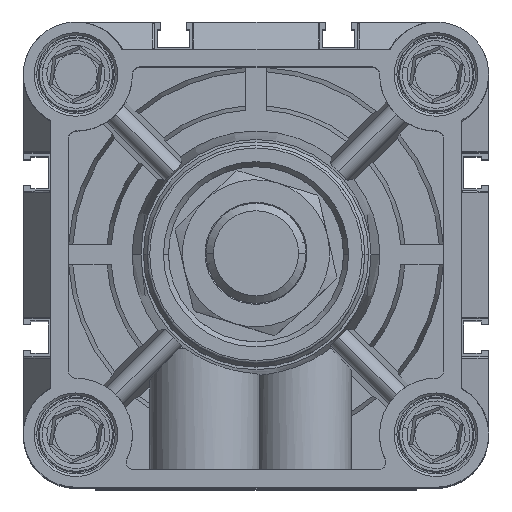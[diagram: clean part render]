
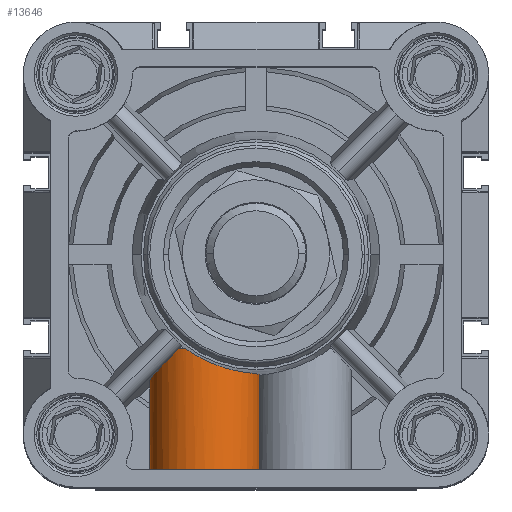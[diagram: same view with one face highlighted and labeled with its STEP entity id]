
A CAD part, top view. The second image highlights one B-rep face of the part: STEP entity #13646.
In plain terms, the highlighted cylindrical face has radius 11 mm (diameter 22 mm), a partial arc.
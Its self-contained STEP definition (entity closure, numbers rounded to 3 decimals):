
#85 = EDGE_CURVE ( 'NONE', #27370, #30979, #36142, .T. ) ;
#295 = CARTESIAN_POINT ( 'NONE',  ( 31.294, 19.67, 27.796 ) ) ;
#329 = CARTESIAN_POINT ( 'NONE',  ( 27.68, 21.678, 27.385 ) ) ;
#382 = CARTESIAN_POINT ( 'NONE',  ( 33.413, 18.799, 27.515 ) ) ;
#451 = VERTEX_POINT ( 'NONE', #32773 ) ;
#500 = CARTESIAN_POINT ( 'NONE',  ( 32.566, 19.115, 27.686 ) ) ;
#504 = CARTESIAN_POINT ( 'NONE',  ( 34.676, 18.397, 27.093 ) ) ;
#661 = CARTESIAN_POINT ( 'NONE',  ( 35.095, 18.275, 26.924 ) ) ;
#999 = CARTESIAN_POINT ( 'NONE',  ( 38.142, 17.593, 24.977 ) ) ;
#1710 = CARTESIAN_POINT ( 'NONE',  ( 26.958, 22.2, 27.118 ) ) ;
#1881 = DIRECTION ( 'NONE',  ( 1., 0., 0. ) ) ;
#2483 = CARTESIAN_POINT ( 'NONE',  ( 24.903, 21.578, 26.105 ) ) ;
#2598 = CARTESIAN_POINT ( 'NONE',  ( 21.636, 18.209, 24.045 ) ) ;
#4513 = VERTEX_POINT ( 'NONE', #21608 ) ;
#4623 = EDGE_CURVE ( 'NONE', #18784, #30979, #12609, .T. ) ;
#4698 = CARTESIAN_POINT ( 'NONE',  ( 30.77, 22.2, 16.8 ) ) ;
#4702 = CARTESIAN_POINT ( 'NONE',  ( 19.77, 22.2, 16.8 ) ) ;
#4954 = DIRECTION ( 'NONE',  ( 0., -1., 0. ) ) ;
#5428 = CARTESIAN_POINT ( 'NONE',  ( 35.905, 18.059, 26.538 ) ) ;
#5450 = EDGE_CURVE ( 'NONE', #22010, #4513, #12364, .T. ) ;
#5459 = CARTESIAN_POINT ( 'NONE',  ( 19.77, 16.176, 20.663 ) ) ;
#6532 = CARTESIAN_POINT ( 'NONE',  ( 36.298, 17.964, 26.321 ) ) ;
#7739 = ORIENTED_EDGE ( 'NONE', *, *, #33880, .T. ) ;
#7899 = B_SPLINE_CURVE_WITH_KNOTS ( 'NONE', 3,
 ( #33775, #14170, #28212, #11442 ),
 .UNSPECIFIED., .F., .F.,
 ( 4, 4 ),
 ( 0., 0.001 ),
 .UNSPECIFIED. ) ;
#8404 = AXIS2_PLACEMENT_3D ( 'NONE', #26110, #9352, #28892 ) ;
#9352 = DIRECTION ( 'NONE',  ( 0., -1., 0. ) ) ;
#9353 = AXIS2_PLACEMENT_3D ( 'NONE', #17322, #17015, #16934 ) ;
#9587 = EDGE_CURVE ( 'NONE', #22010, #18784, #15129, .T. ) ;
#10892 = ORIENTED_EDGE ( 'NONE', *, *, #25893, .T. ) ;
#11118 = ORIENTED_EDGE ( 'NONE', *, *, #9587, .F. ) ;
#11442 = CARTESIAN_POINT ( 'NONE',  ( 24.903, 21.578, 26.105 ) ) ;
#11458 = CARTESIAN_POINT ( 'NONE',  ( 37.431, 17.722, 25.566 ) ) ;
#11631 = CARTESIAN_POINT ( 'NONE',  ( 37.061, 17.796, 25.835 ) ) ;
#11672 = CARTESIAN_POINT ( 'NONE',  ( 38.476, 17.539, 24.663 ) ) ;
#11822 = CARTESIAN_POINT ( 'NONE',  ( 39.102, 17.445, 23.996 ) ) ;
#11935 = CARTESIAN_POINT ( 'NONE',  ( 24.903, 21.578, 26.105 ) ) ;
#12231 = CARTESIAN_POINT ( 'NONE',  ( 39.394, 17.405, 23.644 ) ) ;
#12354 = CARTESIAN_POINT ( 'NONE',  ( 39.935, 17.336, 22.9 ) ) ;
#12364 = B_SPLINE_CURVE_WITH_KNOTS ( 'NONE', 3,
 ( #15509, #15601, #14780, #13975, #13432, #13728, #13361, #12700, #12354, #12231, #11822, #11672, #999, #11458, #11631, #6532, #5428, #661, #504, #382, #500, #295, #34483, #12748, #12741, #12703, #329, #1710 ),
 .UNSPECIFIED., .F., .F.,
 ( 4, 2, 2, 2, 2, 2, 2, 2, 2, 2, 2, 2, 2, 4 ),
 ( 0.024, 0.026, 0.027, 0.03, 0.031, 0.032, 0.034, 0.035, 0.037, 0.038, 0.041, 0.042, 0.043, 0.046 ),
 .UNSPECIFIED. ) ;
#12609 = CIRCLE ( 'NONE', #9353, 11. ) ;
#12700 = CARTESIAN_POINT ( 'NONE',  ( 40.186, 17.306, 22.505 ) ) ;
#12703 = CARTESIAN_POINT ( 'NONE',  ( 28.449, 21.181, 27.582 ) ) ;
#12741 = CARTESIAN_POINT ( 'NONE',  ( 29.641, 20.5, 27.749 ) ) ;
#12748 = CARTESIAN_POINT ( 'NONE',  ( 30.046, 20.282, 27.784 ) ) ;
#13361 = CARTESIAN_POINT ( 'NONE',  ( 40.855, 17.225, 21.29 ) ) ;
#13432 = CARTESIAN_POINT ( 'NONE',  ( 41.539, 17.12, 19.091 ) ) ;
#13646 = ADVANCED_FACE ( 'NONE', ( #28061 ), #20646, .T. ) ;
#13728 = CARTESIAN_POINT ( 'NONE',  ( 41.193, 17.184, 20.436 ) ) ;
#13975 = CARTESIAN_POINT ( 'NONE',  ( 41.626, 17.098, 18.632 ) ) ;
#14170 = CARTESIAN_POINT ( 'NONE',  ( 25.289, 21.986, 26.34 ) ) ;
#14251 = VECTOR ( 'NONE', #19120, 1000. ) ;
#14678 = VECTOR ( 'NONE', #4954, 1000. ) ;
#14780 = CARTESIAN_POINT ( 'NONE',  ( 41.741, 17.053, 17.718 ) ) ;
#14925 = VERTEX_POINT ( 'NONE', #11935 ) ;
#15129 = LINE ( 'NONE', #35908, #14251 ) ;
#15509 = CARTESIAN_POINT ( 'NONE',  ( 41.77, 17.006, 16.8 ) ) ;
#15601 = CARTESIAN_POINT ( 'NONE',  ( 41.77, 17.03, 17.259 ) ) ;
#15677 = CARTESIAN_POINT ( 'NONE',  ( 41.77, -2., 16.8 ) ) ;
#16739 = CARTESIAN_POINT ( 'NONE',  ( 41.77, 17.006, 16.8 ) ) ;
#16934 = DIRECTION ( 'NONE',  ( 1., 0., 0. ) ) ;
#17015 = DIRECTION ( 'NONE',  ( 0., -1., 0. ) ) ;
#17322 = CARTESIAN_POINT ( 'NONE',  ( 30.77, -2., 16.8 ) ) ;
#18784 = VERTEX_POINT ( 'NONE', #15677 ) ;
#19120 = DIRECTION ( 'NONE',  ( 0., -1., 0. ) ) ;
#19556 = ORIENTED_EDGE ( 'NONE', *, *, #4623, .F. ) ;
#19791 = ORIENTED_EDGE ( 'NONE', *, *, #5450, .T. ) ;
#20646 = CYLINDRICAL_SURFACE ( 'NONE', #21827, 11. ) ;
#21608 = CARTESIAN_POINT ( 'NONE',  ( 26.958, 22.2, 27.118 ) ) ;
#21827 = AXIS2_PLACEMENT_3D ( 'NONE', #4698, #35429, #1881 ) ;
#22010 = VERTEX_POINT ( 'NONE', #16739 ) ;
#22030 = ORIENTED_EDGE ( 'NONE', *, *, #26307, .T. ) ;
#23669 = ORIENTED_EDGE ( 'NONE', *, *, #85, .T. ) ;
#23871 = CARTESIAN_POINT ( 'NONE',  ( 19.77, -2., 16.8 ) ) ;
#24997 = CARTESIAN_POINT ( 'NONE',  ( 19.77, 15.986, 16.8 ) ) ;
#25893 = EDGE_CURVE ( 'NONE', #451, #14925, #7899, .T. ) ;
#26110 = CARTESIAN_POINT ( 'NONE',  ( 30.77, 22.2, 16.8 ) ) ;
#26125 = CIRCLE ( 'NONE', #8404, 11. ) ;
#26307 = EDGE_CURVE ( 'NONE', #14925, #27370, #28495, .T. ) ;
#27370 = VERTEX_POINT ( 'NONE', #31226 ) ;
#28061 = FACE_OUTER_BOUND ( 'NONE', #28210, .T. ) ;
#28210 = EDGE_LOOP ( 'NONE', ( #22030, #23669, #19556, #11118, #19791, #7739, #10892 ) ) ;
#28212 = CARTESIAN_POINT ( 'NONE',  ( 25.097, 21.778, 26.227 ) ) ;
#28495 =( BOUNDED_CURVE ( )  B_SPLINE_CURVE ( 3, ( #2483, #2598, #5459, #24997 ),
 .UNSPECIFIED., .F., .F. ) 
 B_SPLINE_CURVE_WITH_KNOTS ( ( 4, 4 ),
 ( 5.226, 6.234 ),
 .UNSPECIFIED. ) 
 CURVE ( )  GEOMETRIC_REPRESENTATION_ITEM ( )  RATIONAL_B_SPLINE_CURVE ( ( 1., 0.917, 0.917, 1. ) ) 
 REPRESENTATION_ITEM ( '' )  );
#28892 = DIRECTION ( 'NONE',  ( 1., 0., 0. ) ) ;
#30979 = VERTEX_POINT ( 'NONE', #23871 ) ;
#31226 = CARTESIAN_POINT ( 'NONE',  ( 19.77, 15.986, 16.8 ) ) ;
#32773 = CARTESIAN_POINT ( 'NONE',  ( 25.481, 22.2, 26.445 ) ) ;
#33775 = CARTESIAN_POINT ( 'NONE',  ( 25.481, 22.2, 26.445 ) ) ;
#33880 = EDGE_CURVE ( 'NONE', #4513, #451, #26125, .T. ) ;
#34483 = CARTESIAN_POINT ( 'NONE',  ( 30.871, 19.868, 27.807 ) ) ;
#35429 = DIRECTION ( 'NONE',  ( 0., -1., 0. ) ) ;
#35908 = CARTESIAN_POINT ( 'NONE',  ( 41.77, 22.2, 16.8 ) ) ;
#36142 = LINE ( 'NONE', #4702, #14678 ) ;
